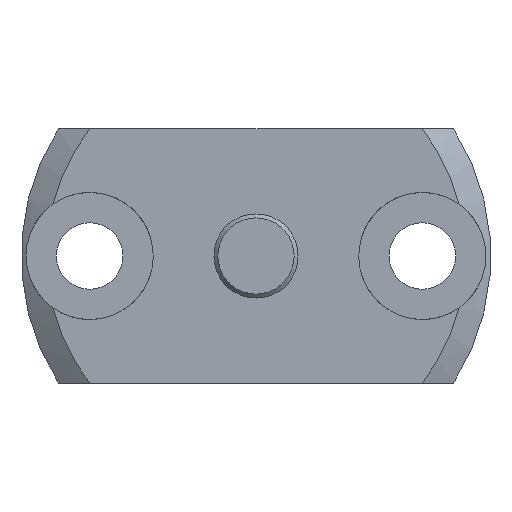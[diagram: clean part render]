
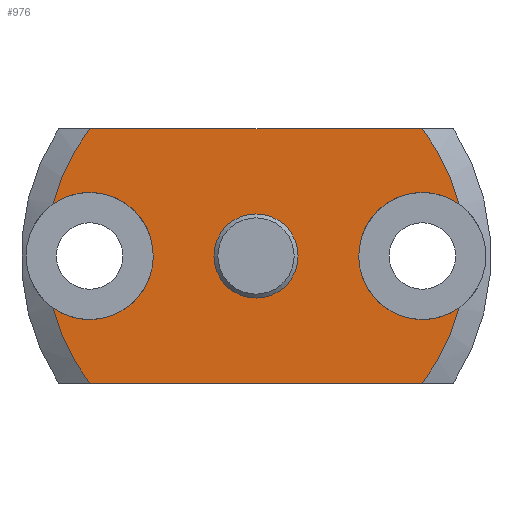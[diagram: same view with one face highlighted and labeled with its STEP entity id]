
A CAD part, left-side view. The second image highlights one B-rep face of the part: STEP entity #976.
In plain terms, the highlighted planar face has unit normal (-1, 0, 0).
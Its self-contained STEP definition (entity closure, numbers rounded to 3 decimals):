
#38=LINE('',#1719,#88);
#39=LINE('',#1721,#89);
#88=VECTOR('',#1311,1000.);
#89=VECTOR('',#1314,1000.);
#306=ORIENTED_EDGE('',*,*,#548,.T.);
#307=ORIENTED_EDGE('',*,*,#534,.T.);
#308=ORIENTED_EDGE('',*,*,#549,.F.);
#309=ORIENTED_EDGE('',*,*,#536,.F.);
#310=ORIENTED_EDGE('',*,*,#550,.T.);
#311=ORIENTED_EDGE('',*,*,#540,.T.);
#312=ORIENTED_EDGE('',*,*,#551,.F.);
#313=ORIENTED_EDGE('',*,*,#530,.T.);
#314=ORIENTED_EDGE('',*,*,#552,.T.);
#530=EDGE_CURVE('',#652,#650,#721,.F.);
#534=EDGE_CURVE('',#651,#655,#723,.F.);
#536=EDGE_CURVE('',#656,#658,#724,.T.);
#540=EDGE_CURVE('',#657,#661,#726,.F.);
#548=EDGE_CURVE('',#650,#651,#732,.T.);
#549=EDGE_CURVE('',#658,#655,#38,.T.);
#550=EDGE_CURVE('',#656,#657,#733,.T.);
#551=EDGE_CURVE('',#652,#661,#39,.T.);
#552=EDGE_CURVE('',#669,#669,#734,.T.);
#650=VERTEX_POINT('',#1660);
#651=VERTEX_POINT('',#1661);
#652=VERTEX_POINT('',#1663);
#655=VERTEX_POINT('',#1675);
#656=VERTEX_POINT('',#1685);
#657=VERTEX_POINT('',#1686);
#658=VERTEX_POINT('',#1688);
#661=VERTEX_POINT('',#1700);
#669=VERTEX_POINT('',#1723);
#721=CIRCLE('',#1090,10.7);
#723=CIRCLE('',#1092,10.7);
#724=CIRCLE('',#1094,10.7);
#726=CIRCLE('',#1096,10.7);
#732=CIRCLE('',#1104,3.25);
#733=CIRCLE('',#1105,3.25);
#734=CIRCLE('',#1106,2.);
#784=EDGE_LOOP('',(#306,#307,#308,#309,#310,#311,#312,#313));
#785=EDGE_LOOP('',(#314));
#870=FACE_BOUND('',#784,.T.);
#871=FACE_BOUND('',#785,.T.);
#928=PLANE('',#1103);
#976=ADVANCED_FACE('',(#870,#871),#928,.F.);
#1090=AXIS2_PLACEMENT_3D('',#1662,#1279,#1280);
#1092=AXIS2_PLACEMENT_3D('',#1676,#1283,#1284);
#1094=AXIS2_PLACEMENT_3D('',#1687,#1287,#1288);
#1096=AXIS2_PLACEMENT_3D('',#1701,#1291,#1292);
#1103=AXIS2_PLACEMENT_3D('',#1717,#1307,#1308);
#1104=AXIS2_PLACEMENT_3D('',#1718,#1309,#1310);
#1105=AXIS2_PLACEMENT_3D('',#1720,#1312,#1313);
#1106=AXIS2_PLACEMENT_3D('',#1722,#1315,#1316);
#1279=DIRECTION('',(1.,0.,0.));
#1280=DIRECTION('',(0.,0.,-1.));
#1283=DIRECTION('',(1.,0.,0.));
#1284=DIRECTION('',(0.,0.,-1.));
#1287=DIRECTION('',(1.,0.,0.));
#1288=DIRECTION('',(0.,0.,-1.));
#1291=DIRECTION('',(1.,0.,0.));
#1292=DIRECTION('',(0.,0.,-1.));
#1307=DIRECTION('',(1.,0.,0.));
#1308=DIRECTION('',(0.,0.,-1.));
#1309=DIRECTION('',(1.,0.,0.));
#1310=DIRECTION('',(0.,0.,-1.));
#1311=DIRECTION('',(0.,-1.,0.));
#1312=DIRECTION('',(1.,0.,0.));
#1313=DIRECTION('',(0.,0.,-1.));
#1314=DIRECTION('',(0.,1.,0.));
#1315=DIRECTION('',(1.,0.,0.));
#1316=DIRECTION('',(0.,0.,-1.));
#1660=CARTESIAN_POINT('',(0.,-10.363,-2.663));
#1661=CARTESIAN_POINT('',(0.,-10.363,2.663));
#1662=CARTESIAN_POINT('',(0.,0.,0.));
#1663=CARTESIAN_POINT('',(0.,-8.499,-6.5));
#1675=CARTESIAN_POINT('',(0.,-8.499,6.5));
#1676=CARTESIAN_POINT('',(0.,0.,0.));
#1685=CARTESIAN_POINT('',(0.,10.363,2.663));
#1686=CARTESIAN_POINT('',(0.,10.363,-2.663));
#1687=CARTESIAN_POINT('',(0.,0.,0.));
#1688=CARTESIAN_POINT('',(0.,8.499,6.5));
#1700=CARTESIAN_POINT('',(0.,8.499,-6.5));
#1701=CARTESIAN_POINT('',(0.,0.,0.));
#1717=CARTESIAN_POINT('',(0.,0.,0.));
#1718=CARTESIAN_POINT('',(0.,-8.5,0.));
#1719=CARTESIAN_POINT('',(0.,10.087,6.5));
#1720=CARTESIAN_POINT('',(0.,8.5,0.));
#1721=CARTESIAN_POINT('',(0.,-10.087,-6.5));
#1722=CARTESIAN_POINT('',(0.,0.,0.));
#1723=CARTESIAN_POINT('',(0.,0.,-2.));
